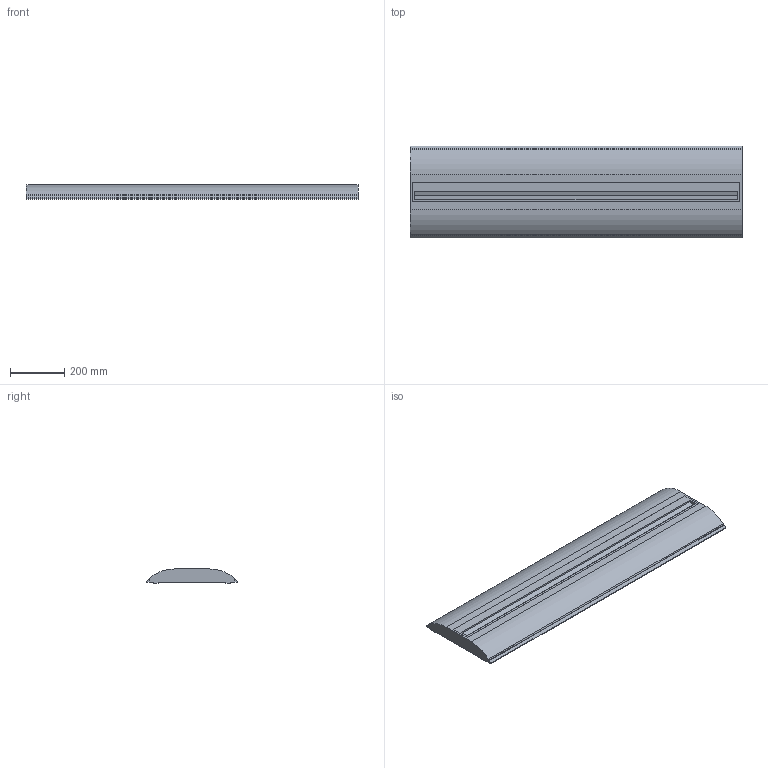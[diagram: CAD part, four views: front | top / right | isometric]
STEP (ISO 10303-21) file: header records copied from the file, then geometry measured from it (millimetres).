
FILE_DESCRIPTION(/* description */ ('Unknown'),/* implementation_level */ '2;1');
FILE_NAME(/* name */ '3D_Footsie2',/* time_stamp */ '2024-01-11T11:49:58+01:00',/* author */ ('Unknown'),/* organization */ ('Unknown'),/* preprocessor_version */ 'ST-DEVELOPER v18.104',/* originating_system */ 'Solid Edge',/* authorisation */ 'Unknown');
FILE_SCHEMA (('AUTOMOTIVE_DESIGN {1 0 10303 214 3 1 1}'));
Length unit declared in the file: millimetre
Products named in the file (1): 3D_Footsie2
Bounding box: 1229 x 338.56 x 52 mm (x, y, z)
Volume: 16564139.1 mm3; surface area: 1031871.8 mm2
Topology: 1 solids, 1 shells, 50 faces, 135 edges, 90 vertices
Faces by surface type: plane 36, cylinder 14
Entity records: 1597 total; most frequent: CARTESIAN_POINT 276, ORIENTED_EDGE 270, DIRECTION 265, EDGE_CURVE 135, LINE 107, VECTOR 107, VERTEX_POINT 90, AXIS2_PLACEMENT_3D 79
